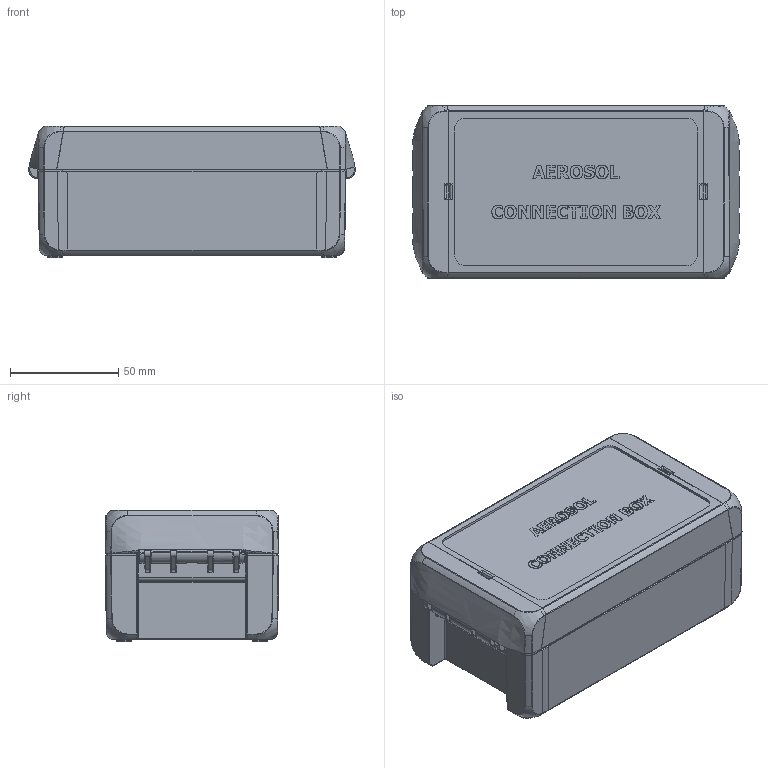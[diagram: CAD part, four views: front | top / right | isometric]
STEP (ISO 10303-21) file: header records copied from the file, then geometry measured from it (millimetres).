
FILE_DESCRIPTION(/* description */ ('Aerosol Connection Box'),/* implementation_level */ '2;1');
FILE_NAME(/* name */ '2878010012608.stp',/* time_stamp */ '2026-06-15T23:44:49+02:00',/* author */ ('tokti'),/* organization */ (''),/* preprocessor_version */ 'ST-DEVELOPER v20.1',/* originating_system */ 'Autodesk Inventor 2026',/* authorisation */ '');
FILE_SCHEMA (('AUTOMOTIVE_DESIGN { 1 0 10303 214 3 1 1 }'));
Products named in the file (3): 2878010012608; 96033124_B-140806-ABS-7024; 287898990012607
Assembly tree (2 placements, depth 2):
  2878010012608
    96033124_B-140806-ABS-7024
    287898990012607
Bounding box: 151 x 80 x 61 mm (x, y, z)
Volume: 171802.2 mm3; surface area: 139007.1 mm2
Topology: 5 solids, 5 shells, 2386 faces, 6145 edges, 3812 vertices
Faces by surface type: plane 859, cylinder 718, bspline 621, cone 92, sphere 60, torus 36
Full cylindrical faces by diameter (mm): 2.5 x4, 4 x4, 4.25 x4
Entity records: 145182 total; most frequent: CARTESIAN_POINT 88747, ORIENTED_EDGE 12198, DIRECTION 11009, EDGE_CURVE 6099, AXIS2_PLACEMENT_3D 3968, VERTEX_POINT 3812, LINE 3073, VECTOR 3073
